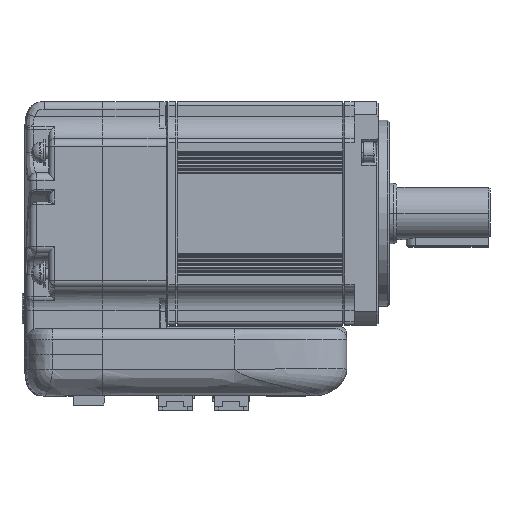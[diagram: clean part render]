
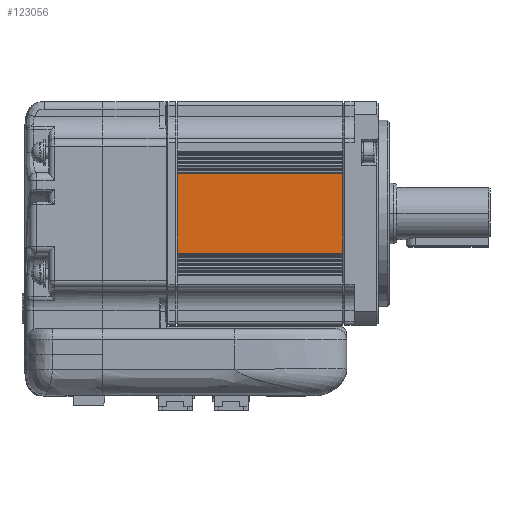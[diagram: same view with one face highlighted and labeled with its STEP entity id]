
A CAD part, top view. The second image highlights one B-rep face of the part: STEP entity #123056.
In plain terms, the highlighted planar face has unit normal (0, 0, 1) as drawn and (1, 0, 0) by its records, which use the part's own axes.
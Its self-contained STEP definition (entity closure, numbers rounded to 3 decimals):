
#119776=DIRECTION('',(0.,-1.,0.));
#119777=VECTOR('',#119776,21.4);
#119778=CARTESIAN_POINT('',(1701.17,-352.463,-54.));
#119779=LINE('',#119778,#119777);
#120899=DIRECTION('',(0.,-1.,0.));
#120900=VECTOR('',#120899,21.4);
#120901=CARTESIAN_POINT('',(1701.17,-352.463,-9.5));
#120902=LINE('',#120901,#120900);
#120907=DIRECTION('',(0.,0.,1.));
#120908=VECTOR('',#120907,44.5);
#120909=CARTESIAN_POINT('',(1701.17,-373.863,-54.));
#120910=LINE('',#120909,#120908);
#120927=DIRECTION('',(0.,0.,-1.));
#120928=VECTOR('',#120927,44.5);
#120929=CARTESIAN_POINT('',(1701.17,-352.463,-9.5));
#120930=LINE('',#120929,#120928);
#121647=CARTESIAN_POINT('',(1701.17,-352.463,-9.5));
#121648=CARTESIAN_POINT('',(1701.17,-352.463,-54.));
#121649=VERTEX_POINT('',#121647);
#121650=VERTEX_POINT('',#121648);
#121849=CARTESIAN_POINT('',(1701.17,-373.863,-9.5));
#121850=VERTEX_POINT('',#121849);
#122223=CARTESIAN_POINT('',(1701.17,-373.863,-54.));
#122224=VERTEX_POINT('',#122223);
#123043=CARTESIAN_POINT('',(1701.17,-344.163,-9.5));
#123044=DIRECTION('',(-1.,0.,0.));
#123045=DIRECTION('',(0.,0.,1.));
#123046=AXIS2_PLACEMENT_3D('',#123043,#123044,#123045);
#123047=PLANE('',#123046);
#123048=ORIENTED_EDGE('',*,*,#122619,.T.);
#123050=ORIENTED_EDGE('',*,*,#123049,.T.);
#123051=ORIENTED_EDGE('',*,*,#122700,.F.);
#123053=ORIENTED_EDGE('',*,*,#123052,.T.);
#123054=EDGE_LOOP('',(#123048,#123050,#123051,#123053));
#123055=FACE_OUTER_BOUND('',#123054,.F.);
#123056=ADVANCED_FACE('',(#123055),#123047,.F.);
#122619=EDGE_CURVE('',#121650,#122224,#119779,.T.);
#122700=EDGE_CURVE('',#121649,#121850,#120902,.T.);
#123049=EDGE_CURVE('',#122224,#121850,#120910,.T.);
#123052=EDGE_CURVE('',#121649,#121650,#120930,.T.);
